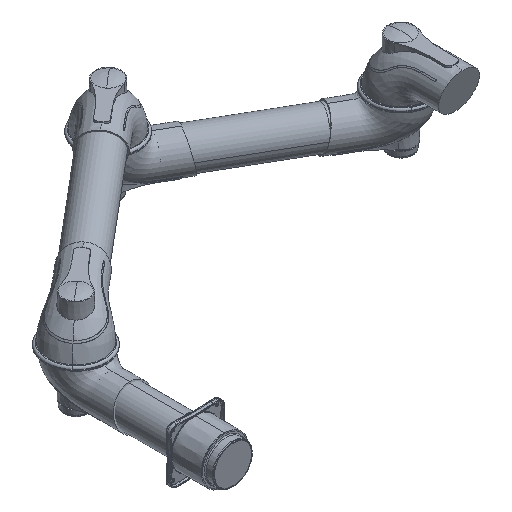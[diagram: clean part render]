
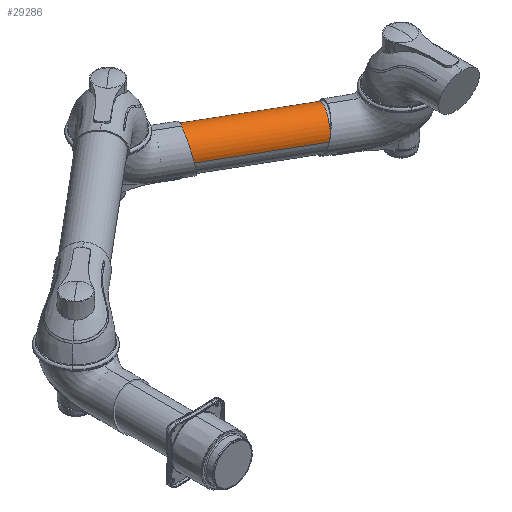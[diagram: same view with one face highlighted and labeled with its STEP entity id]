
A CAD part, isometric view. The second image highlights one B-rep face of the part: STEP entity #29286.
In plain terms, the highlighted cylindrical face has radius 39 mm (diameter 78 mm), a partial arc.
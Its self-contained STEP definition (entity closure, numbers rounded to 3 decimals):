
#29014=CARTESIAN_POINT('',(-261.938,0.,0.));
#29015=DIRECTION('',(1.,0.,0.));
#29016=DIRECTION('',(0.,-1.,0.));
#29017=AXIS2_PLACEMENT_3D('',#29014,#29015,#29016);
#29022=DIRECTION('',(-1.,0.,0.));
#29023=VECTOR('',#29022,261.938);
#29024=CARTESIAN_POINT('',(0.,-39.,0.));
#29025=LINE('',#29024,#29023);
#29029=CARTESIAN_POINT('',(0.,0.,0.));
#29030=DIRECTION('',(-1.,0.,0.));
#29031=DIRECTION('',(0.,1.,0.));
#29032=AXIS2_PLACEMENT_3D('',#29029,#29030,#29031);
#29037=DIRECTION('',(-1.,0.,0.));
#29038=VECTOR('',#29037,261.938);
#29039=CARTESIAN_POINT('',(0.,39.,0.));
#29040=LINE('',#29039,#29038);
#29076=CARTESIAN_POINT('',(0.,39.,0.));
#29077=CARTESIAN_POINT('',(0.,-39.,0.));
#29078=VERTEX_POINT('',#29076);
#29079=VERTEX_POINT('',#29077);
#29080=CARTESIAN_POINT('',(-261.938,39.,0.));
#29081=CARTESIAN_POINT('',(-261.938,-39.,0.));
#29082=VERTEX_POINT('',#29080);
#29083=VERTEX_POINT('',#29081);
#29272=CARTESIAN_POINT('',(-325.5,0.,0.));
#29273=DIRECTION('',(1.,0.,0.));
#29274=DIRECTION('',(0.,-1.,0.));
#29275=AXIS2_PLACEMENT_3D('',#29272,#29273,#29274);
#29276=CYLINDRICAL_SURFACE('',#29275,39.);
#29277=ORIENTED_EDGE('',*,*,#29259,.F.);
#29279=ORIENTED_EDGE('',*,*,#29278,.F.);
#29281=ORIENTED_EDGE('',*,*,#29280,.F.);
#29283=ORIENTED_EDGE('',*,*,#29282,.T.);
#29284=EDGE_LOOP('',(#29277,#29279,#29281,#29283));
#29285=FACE_OUTER_BOUND('',#29284,.F.);
#29018=CIRCLE('',#29017,39.);
#29033=CIRCLE('',#29032,39.);
#29259=EDGE_CURVE('',#29083,#29082,#29018,.T.);
#29278=EDGE_CURVE('',#29079,#29083,#29025,.T.);
#29280=EDGE_CURVE('',#29078,#29079,#29033,.T.);
#29282=EDGE_CURVE('',#29078,#29082,#29040,.T.);
#29286=ADVANCED_FACE('',(#29285),#29276,.T.);
